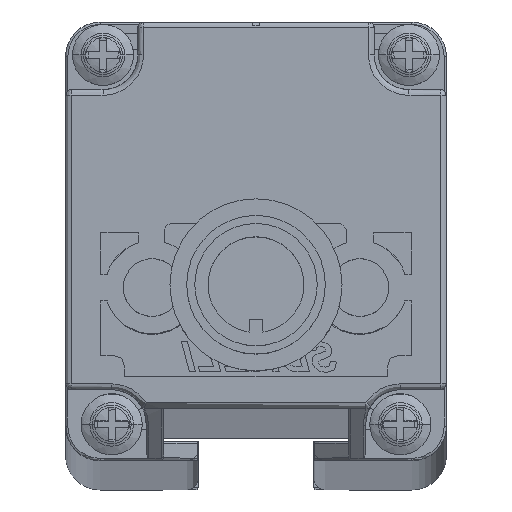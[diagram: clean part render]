
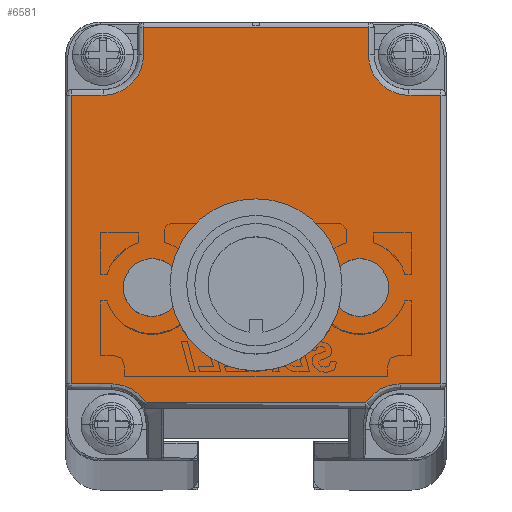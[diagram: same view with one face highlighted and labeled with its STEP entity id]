
A CAD part, top view. The second image highlights one B-rep face of the part: STEP entity #6581.
In plain terms, the highlighted planar face has unit normal (0, 0, 1).
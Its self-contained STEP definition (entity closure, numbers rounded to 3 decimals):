
#2629=CARTESIAN_POINT('',(0.65,-8.054,
1325.276));
#2630=DIRECTION('',(0.,0.,1.));
#2631=DIRECTION('',(1.,0.,0.));
#2632=AXIS2_PLACEMENT_3D('',#2629,#2630,#2631);
#2634=CARTESIAN_POINT('',(0.65,-8.054,
1325.276));
#2635=DIRECTION('',(0.,0.,1.));
#2636=DIRECTION('',(-1.,0.,0.));
#2637=AXIS2_PLACEMENT_3D('',#2634,#2635,#2636);
#2639=CARTESIAN_POINT('',(9.65,-8.055,1325.276));
#2640=DIRECTION('',(0.,0.,1.));
#2641=DIRECTION('',(1.,-0.007,0.));
#2642=AXIS2_PLACEMENT_3D('',#2639,#2640,#2641);
#2644=CARTESIAN_POINT('',(9.65,-8.055,1325.276));
#2645=DIRECTION('',(0.,0.,1.));
#2646=DIRECTION('',(-1.,0.007,0.));
#2647=AXIS2_PLACEMENT_3D('',#2644,#2645,#2646);
#2649=CARTESIAN_POINT('',(-8.35,-8.054,
1325.276));
#2650=DIRECTION('',(0.,0.,1.));
#2651=DIRECTION('',(1.,0.007,0.));
#2652=AXIS2_PLACEMENT_3D('',#2649,#2650,#2651);
#2654=CARTESIAN_POINT('',(-8.35,-8.054,
1325.276));
#2655=DIRECTION('',(0.,0.,1.));
#2656=DIRECTION('',(-1.,-0.007,0.));
#2657=AXIS2_PLACEMENT_3D('',#2654,#2655,#2656);
#2659=CARTESIAN_POINT('',(-11.85,-19.904,
1325.276));
#2660=DIRECTION('',(0.,0.,1.));
#2661=DIRECTION('',(0.849,0.528,0.));
#2662=AXIS2_PLACEMENT_3D('',#2659,#2660,#2661);
#2664=CARTESIAN_POINT('',(-12.6,12.094,1325.276));
#2665=DIRECTION('',(0.,0.,1.));
#2666=DIRECTION('',(0.,-1.,0.));
#2667=AXIS2_PLACEMENT_3D('',#2664,#2665,#2666);
#2669=CARTESIAN_POINT('',(13.9,12.094,1325.276));
#2670=DIRECTION('',(0.,0.,1.));
#2671=DIRECTION('',(-1.,0.,0.));
#2672=AXIS2_PLACEMENT_3D('',#2669,#2670,#2671);
#2674=CARTESIAN_POINT('',(13.15,-19.904,1325.276));
#2675=DIRECTION('',(0.,0.,1.));
#2676=DIRECTION('',(0.,1.,0.));
#2677=AXIS2_PLACEMENT_3D('',#2674,#2675,#2676);
#4225=DIRECTION('',(1.,0.,0.));
#4226=VECTOR('',#4225,19.056);
#4227=CARTESIAN_POINT('',(-8.878,-18.056,
1325.276));
#4228=LINE('',#4227,#4226);
#4869=DIRECTION('',(0.,1.,0.));
#4870=VECTOR('',#4869,2.35);
#4871=CARTESIAN_POINT('',(10.4,12.094,1325.276));
#4872=LINE('',#4871,#4870);
#4892=DIRECTION('',(-1.,0.,0.));
#4893=VECTOR('',#4892,19.5);
#4894=CARTESIAN_POINT('',(10.4,14.444,1325.276));
#4895=LINE('',#4894,#4893);
#4916=DIRECTION('',(0.,-1.,0.));
#4917=VECTOR('',#4916,2.35);
#4918=CARTESIAN_POINT('',(-9.1,14.444,1325.276));
#4919=LINE('',#4918,#4917);
#4943=DIRECTION('',(-1.,0.,0.));
#4944=VECTOR('',#4943,2.75);
#4945=CARTESIAN_POINT('',(-12.6,8.594,1325.276));
#4946=LINE('',#4945,#4944);
#4974=DIRECTION('',(0.,-1.,0.));
#4975=VECTOR('',#4974,24.998);
#4976=CARTESIAN_POINT('',(-15.35,8.594,1325.276));
#4977=LINE('',#4976,#4975);
#4998=DIRECTION('',(1.,0.,0.));
#4999=VECTOR('',#4998,3.5);
#5000=CARTESIAN_POINT('',(-15.35,-16.404,
1325.276));
#5001=LINE('',#5000,#4999);
#5062=DIRECTION('',(-1.,0.,0.));
#5063=VECTOR('',#5062,2.75);
#5064=CARTESIAN_POINT('',(16.65,8.594,1325.276));
#5065=LINE('',#5064,#5063);
#5302=DIRECTION('',(1.,0.,0.));
#5303=VECTOR('',#5302,3.5);
#5304=CARTESIAN_POINT('',(13.15,-16.404,1325.276));
#5305=LINE('',#5304,#5303);
#5333=DIRECTION('',(0.,1.,0.));
#5334=VECTOR('',#5333,24.998);
#5335=CARTESIAN_POINT('',(16.65,-16.404,1325.276));
#5336=LINE('',#5335,#5334);
#5697=CARTESIAN_POINT('',(12.15,-8.072,1325.276));
#5698=VERTEX_POINT('',#5697);
#5699=CARTESIAN_POINT('',(7.15,-8.039,1325.276));
#5700=VERTEX_POINT('',#5699);
#5701=CARTESIAN_POINT('',(-8.878,-18.056,
1325.276));
#5702=CARTESIAN_POINT('',(-11.85,-16.404,
1325.276));
#5703=VERTEX_POINT('',#5701);
#5704=VERTEX_POINT('',#5702);
#5705=CARTESIAN_POINT('',(-15.35,-16.404,
1325.276));
#5706=VERTEX_POINT('',#5705);
#5707=CARTESIAN_POINT('',(-15.35,8.594,1325.276));
#5708=VERTEX_POINT('',#5707);
#5709=CARTESIAN_POINT('',(-12.6,8.594,1325.276));
#5710=VERTEX_POINT('',#5709);
#5711=CARTESIAN_POINT('',(-9.1,12.094,1325.276));
#5712=VERTEX_POINT('',#5711);
#5713=CARTESIAN_POINT('',(-9.1,14.444,1325.276));
#5714=VERTEX_POINT('',#5713);
#5715=CARTESIAN_POINT('',(10.4,14.444,1325.276));
#5716=VERTEX_POINT('',#5715);
#5717=CARTESIAN_POINT('',(10.4,12.094,1325.276));
#5718=VERTEX_POINT('',#5717);
#5719=CARTESIAN_POINT('',(13.9,8.594,1325.276));
#5720=VERTEX_POINT('',#5719);
#5721=CARTESIAN_POINT('',(16.65,8.594,1325.276));
#5722=VERTEX_POINT('',#5721);
#5723=CARTESIAN_POINT('',(16.65,-16.404,1325.276));
#5724=VERTEX_POINT('',#5723);
#5725=CARTESIAN_POINT('',(13.15,-16.404,1325.276));
#5726=VERTEX_POINT('',#5725);
#5727=CARTESIAN_POINT('',(10.178,-18.056,1325.276));
#5728=VERTEX_POINT('',#5727);
#5729=CARTESIAN_POINT('',(-5.85,-8.037,
1325.276));
#5730=CARTESIAN_POINT('',(-10.85,-8.07,
1325.276));
#5731=VERTEX_POINT('',#5729);
#5732=VERTEX_POINT('',#5730);
#5733=CARTESIAN_POINT('',(3.65,-8.054,1325.276));
#5734=CARTESIAN_POINT('',(-2.35,-8.054,
1325.276));
#5735=VERTEX_POINT('',#5733);
#5736=VERTEX_POINT('',#5734);
#6530=CARTESIAN_POINT('',(0.65,0.944,
1325.276));
#6531=DIRECTION('',(0.,0.,1.));
#6532=DIRECTION('',(1.,0.,0.));
#6533=AXIS2_PLACEMENT_3D('',#6530,#6531,#6532);
#6534=PLANE('',#6533);
#6536=ORIENTED_EDGE('',*,*,#6535,.T.);
#6538=ORIENTED_EDGE('',*,*,#6537,.F.);
#6540=ORIENTED_EDGE('',*,*,#6539,.F.);
#6542=ORIENTED_EDGE('',*,*,#6541,.F.);
#6544=ORIENTED_EDGE('',*,*,#6543,.T.);
#6546=ORIENTED_EDGE('',*,*,#6545,.F.);
#6548=ORIENTED_EDGE('',*,*,#6547,.F.);
#6550=ORIENTED_EDGE('',*,*,#6549,.F.);
#6552=ORIENTED_EDGE('',*,*,#6551,.T.);
#6554=ORIENTED_EDGE('',*,*,#6553,.F.);
#6556=ORIENTED_EDGE('',*,*,#6555,.F.);
#6558=ORIENTED_EDGE('',*,*,#6557,.F.);
#6560=ORIENTED_EDGE('',*,*,#6559,.T.);
#6562=ORIENTED_EDGE('',*,*,#6561,.F.);
#6563=EDGE_LOOP('',(#6536,#6538,#6540,#6542,#6544,#6546,#6548,#6550,#6552,#6554,
#6556,#6558,#6560,#6562));
#6564=FACE_OUTER_BOUND('',#6563,.F.);
#6565=ORIENTED_EDGE('',*,*,#6517,.T.);
#6566=ORIENTED_EDGE('',*,*,#6478,.T.);
#6567=EDGE_LOOP('',(#6565,#6566));
#6568=FACE_BOUND('',#6567,.F.);
#6570=ORIENTED_EDGE('',*,*,#6569,.T.);
#6572=ORIENTED_EDGE('',*,*,#6571,.T.);
#6573=EDGE_LOOP('',(#6570,#6572));
#6574=FACE_BOUND('',#6573,.F.);
#6576=ORIENTED_EDGE('',*,*,#6575,.T.);
#6578=ORIENTED_EDGE('',*,*,#6577,.T.);
#6579=EDGE_LOOP('',(#6576,#6578));
#6580=FACE_BOUND('',#6579,.F.);
#2633=CIRCLE('',#2632,3.);
#2638=CIRCLE('',#2637,3.);
#2643=CIRCLE('',#2642,2.5);
#2648=CIRCLE('',#2647,2.5);
#2653=CIRCLE('',#2652,2.5);
#2658=CIRCLE('',#2657,2.5);
#2663=CIRCLE('',#2662,3.5);
#2668=CIRCLE('',#2667,3.5);
#2673=CIRCLE('',#2672,3.5);
#2678=CIRCLE('',#2677,3.5);
#6478=EDGE_CURVE('',#5700,#5698,#2648,.T.);
#6517=EDGE_CURVE('',#5698,#5700,#2643,.T.);
#6535=EDGE_CURVE('',#5703,#5704,#2663,.T.);
#6537=EDGE_CURVE('',#5706,#5704,#5001,.T.);
#6539=EDGE_CURVE('',#5708,#5706,#4977,.T.);
#6541=EDGE_CURVE('',#5710,#5708,#4946,.T.);
#6543=EDGE_CURVE('',#5710,#5712,#2668,.T.);
#6545=EDGE_CURVE('',#5714,#5712,#4919,.T.);
#6547=EDGE_CURVE('',#5716,#5714,#4895,.T.);
#6549=EDGE_CURVE('',#5718,#5716,#4872,.T.);
#6551=EDGE_CURVE('',#5718,#5720,#2673,.T.);
#6553=EDGE_CURVE('',#5722,#5720,#5065,.T.);
#6555=EDGE_CURVE('',#5724,#5722,#5336,.T.);
#6557=EDGE_CURVE('',#5726,#5724,#5305,.T.);
#6559=EDGE_CURVE('',#5726,#5728,#2678,.T.);
#6561=EDGE_CURVE('',#5703,#5728,#4228,.T.);
#6569=EDGE_CURVE('',#5731,#5732,#2653,.T.);
#6571=EDGE_CURVE('',#5732,#5731,#2658,.T.);
#6575=EDGE_CURVE('',#5735,#5736,#2633,.T.);
#6577=EDGE_CURVE('',#5736,#5735,#2638,.T.);
#6581=ADVANCED_FACE('',(#6564,#6568,#6574,#6580),#6534,.T.);
